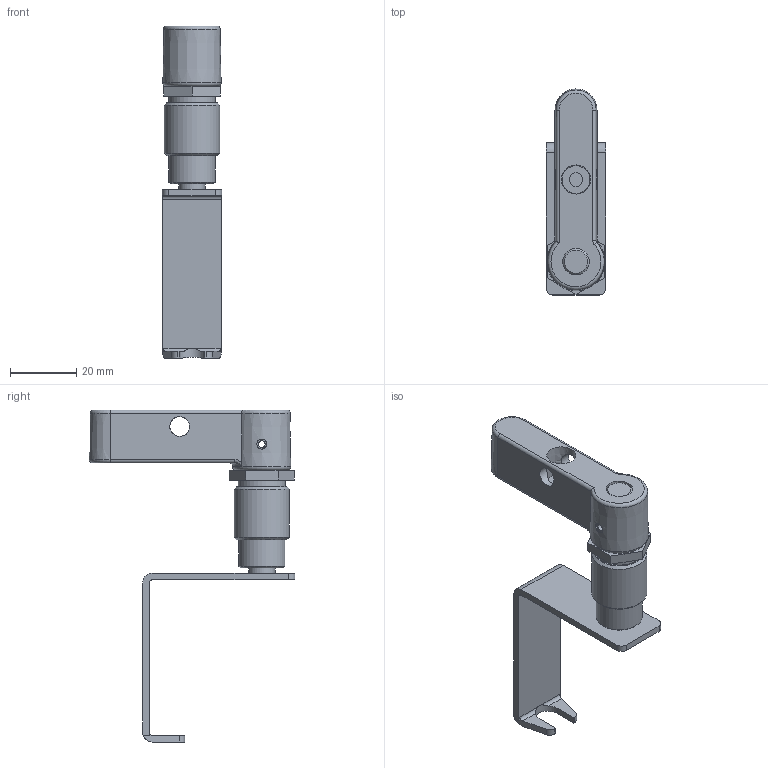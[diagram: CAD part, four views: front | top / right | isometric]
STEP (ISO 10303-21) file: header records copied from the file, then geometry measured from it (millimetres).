
FILE_DESCRIPTION((''),'2;1');
FILE_NAME('\\192.168.5.25\cortem_klient\INVENTOR БАЗА МОДЕЛЕЙ\Актуальная база моделей для отдела продаж\Элементы управления и индикации\РГВ\РГВ11.stp','2019-09-24T13:33:35',('K.S.Bezzubikov'),(''),'Autodesk Inventor 2012','Autodesk Inventor 2012','');
FILE_SCHEMA(('AUTOMOTIVE_DESIGN { 1 0 10303 214 1 1 1 1 }'));
Length unit declared in the file: millimetre
Products named in the file (1): РГВ11_Внешний контур_1
Bounding box: 18 x 62.17 x 100.3 mm (x, y, z)
Volume: 21173.7 mm3; surface area: 10159.7 mm2
Topology: 1 solids, 5 shells, 100 faces, 231 edges, 149 vertices
Faces by surface type: plane 44, cylinder 34, cone 10, bspline 7, torus 5
Full cylindrical faces by diameter (mm): 2 x1, 3 x4, 4.134 x1, 5 x1, 5.05 x1, 6 x2, 8 x4, 11.4 x1, 14 x1, 14.2 x1, 16.662 x1
Entity records: 3194 total; most frequent: CARTESIAN_POINT 1003, DIRECTION 428, ORIENTED_EDGE 382, EDGE_CURVE 191, AXIS2_PLACEMENT_3D 172, EDGE_LOOP 151, VERTEX_POINT 138, FACE_OUTER_BOUND 99
